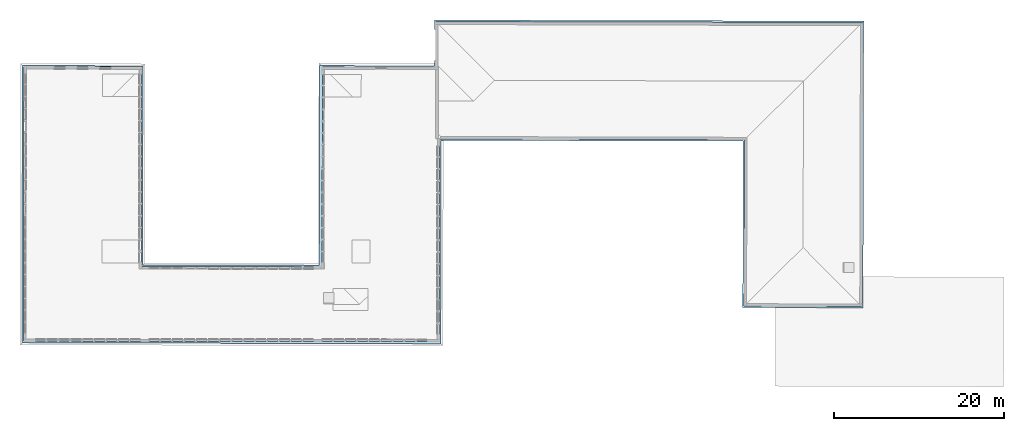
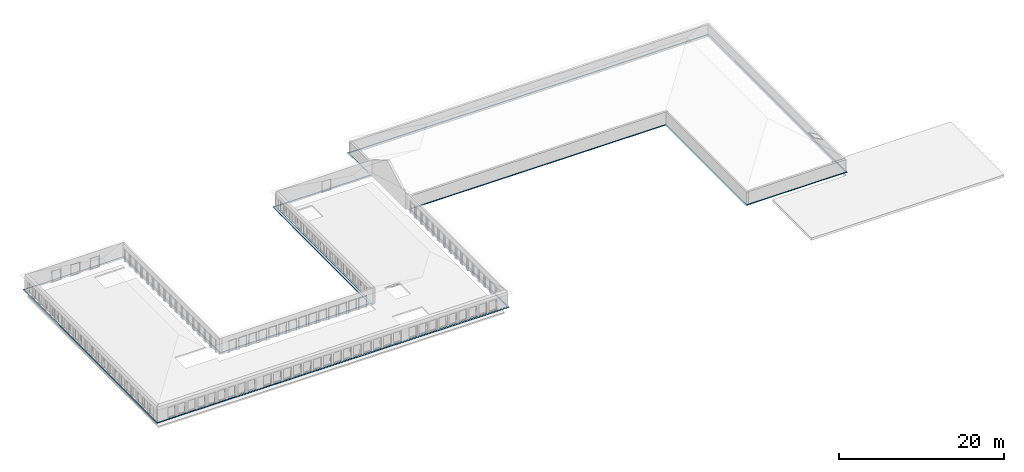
# One storey, part 20 of 26: 1 slab, 1 opening.
"""IFC2X3 building model written with IfcOpenShell, lengths in metres."""

from ifc_helpers import new_model, entity, si_unit, converted_unit, derived_unit, direction, frame, origin, place, context, subcontext, project, spatial, polyline, outline, extrude, boolean, material, layer, layer_set, layer_usage, type_object, element, save


model = new_model("IFC2X3")

# Units and contexts
model_context = context("Model", 3, precision=1e-05, world=origin(), true_north=direction((6.123233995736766e-17, 1.0)))
body_context = subcontext(model_context, "Body", "Model", "MODEL_VIEW")
ifc_project = project(units=[si_unit("LENGTHUNIT", "METRE"), si_unit("AREAUNIT", "SQUARE_METRE"), converted_unit("PLANEANGLEUNIT", "DEGREE", entity("IfcPlaneAngleMeasure", 0.017453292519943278), si_unit("PLANEANGLEUNIT", "RADIAN"), dimensions=[0, 0, 0, 0, 0, 0, 0]), derived_unit("THERMALTRANSMITTANCEUNIT", [(si_unit("MASSUNIT", "GRAM", prefix="KILO"), 1), (si_unit("THERMODYNAMICTEMPERATUREUNIT", "KELVIN"), -1), (si_unit("TIMEUNIT", "SECOND"), -3)])], contexts=[model_context])

# Site, building, storey
site_placement = place(None, frame((1253.6752467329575, 2072.143113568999, 91.49999999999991), z_axis=(0.0, 0.0, 1.0), x_axis=(0.7237211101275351, 0.6900925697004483, 0.0)))
site = spatial("IfcSite", under=ifc_project, at=site_placement, Name="Surface", CompositionType="ELEMENT")
building_placement = place(site_placement, origin())
building = spatial("IfcBuilding", under=site, at=building_placement, CompositionType="ELEMENT")
storey_placement = place(building_placement, frame((0.0, 0.0, 7.0)))
storey = spatial("IfcBuildingStorey", under=building, at=storey_placement, Name="2-R+2", CompositionType="ELEMENT", Elevation=6.999999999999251)

# Slab, opening
ifc_material = material(Name="OMD_ anthracite")
ifc_layer = layer(ifc_material, 0.05)
ifc_layer_set = layer_set([ifc_layer], Name="Sol:corniche")
ifc_layer_usage = layer_usage(ifc_layer_set, "AXIS3", "POSITIVE", 0.0)
slab_type = type_object("IfcSlabType", Name="Sol:corniche", PredefinedType="FLOOR", material=ifc_layer_set)
slab_placement = place(storey_placement, origin())
slab = element("IfcSlab", 1, at=slab_placement, inside=storey, type_object=slab_type, material=ifc_layer_usage, Name="Sol:corniche", ObjectType="Sol:corniche", PredefinedType="FLOOR", context=body_context, shape_type="SweptSolid", body=[
    boolean("DIFFERENCE", extrude(outline(polyline([(-9.166150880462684, -33.43111111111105), (-9.166150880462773, -47.63111111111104), (23.52384901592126, -47.631111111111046), (23.523849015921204, 1.768888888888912), (-0.4661508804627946, 1.768888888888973), (-0.4661508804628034, 37.37888888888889), (19.153849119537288, 37.378888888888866), (19.153849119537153, 51.57888888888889), (-14.66615088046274, 51.5788888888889), (-14.666150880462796, 0.9288888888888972), (-13.521150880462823, 0.92888888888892), (-13.521150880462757, 1.058888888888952), (-9.911150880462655, 1.0588888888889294), (-9.911150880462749, 0.9288888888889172), (-9.245792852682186, 0.928888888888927), (-9.245792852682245, -12.581111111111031), (14.298849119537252, -12.581111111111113), (14.298849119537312, -33.43111111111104), (-9.166150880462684, -33.43111111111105)])), frame((194.2524154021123, -11.670060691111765, 0.8999999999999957), z_axis=(0.0, 0.0, 1.0), x_axis=(-0.6919753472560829, -0.7219211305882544, 0.0)), (0.0, 0.0, -1.0), 0.050000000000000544), extrude(outline(polyline([(-11.06953277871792, 33.34416050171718), (12.42548935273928, 33.34416050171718), (12.444555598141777, 47.23513717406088), (-19.911731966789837, 47.24277706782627), (-19.911731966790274, -1.7904411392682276), (4.00721194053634, -1.8232714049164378), (3.957840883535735, -37.793237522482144), (-15.662140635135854, -37.76630785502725), (-15.681136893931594, -51.60629481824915), (17.778831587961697, -51.652220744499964), (17.847816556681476, -1.392268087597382), (12.42746363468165, -1.3848283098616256), (12.445842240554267, 12.005159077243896), (-11.098777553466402, 12.037475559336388), (-11.06953277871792, 33.34416050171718)])), frame((191.75968113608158, -13.939905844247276, 0.8500000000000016), z_axis=(0.0, 0.0, 1.0), x_axis=(0.6909838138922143, 0.7228702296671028, 0.0)), (0.0, 0.0, 1.0), 0.04999999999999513)),
])
opening_placement = place(slab_placement, origin())
element("IfcOpeningElement", 2, at=opening_placement, cuts=slab, Name="Sol:corniche", ObjectType="Opening", context=body_context, shape_type="SweptSolid", body=[
    extrude(outline(polyline([(-47.25217360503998, -12.379710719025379), (-33.361183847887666, -12.379710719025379), (-33.32893547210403, 11.115289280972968), (-12.022230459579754, 11.115289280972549), (-12.022230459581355, -12.429352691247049), (1.3677695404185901, -12.429352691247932), (1.367769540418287, -17.84971071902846), (51.62776954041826, -17.849710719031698), (51.62776954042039, 15.61028928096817), (37.787769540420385, 15.610289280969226), (37.787769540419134, -4.009710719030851), (1.8177695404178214, -4.009710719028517), (1.8177695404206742, 19.90925571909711), (-47.21540247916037, 19.976556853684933), (-47.25217360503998, -12.379710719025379)])), frame((191.75968113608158, -13.939905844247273, 0.8999999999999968), z_axis=(0.0, 0.0, -1.0), x_axis=(0.7219211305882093, -0.69197534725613, 0.0)), (0.0, 0.0, 1.0), 0.05),
])

save(model, "model.ifc")
